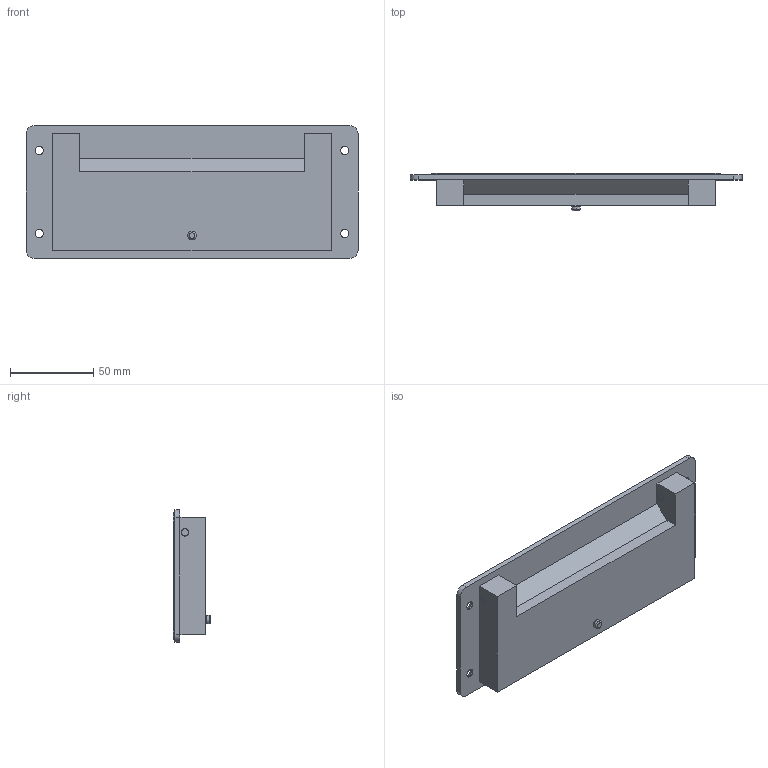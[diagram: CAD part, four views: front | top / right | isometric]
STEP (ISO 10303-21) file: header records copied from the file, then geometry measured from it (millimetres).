
FILE_DESCRIPTION (( 'STEP AP203' ), '1' );
FILE_NAME ('XG01-027-5.STEP', '2024-03-12T03:49:56', ( '' ), ( '' ), 'SwSTEP 2.0', 'SolidWorks 2020', '' );
FILE_SCHEMA (( 'CONFIG_CONTROL_DESIGN' ));
Length unit declared in the file: millimetre
Products named in the file (5): 饜璃1; 饜璃2; XG01-027-5; -5; 饜璃
Assembly tree (5 placements, depth 2):
  XG01-027-5
    -5
    饜璃
    饜璃1
    饜璃2  x2
Bounding box: 200 x 22.5 x 80 mm (x, y, z)
Volume: 106283.3 mm3; surface area: 61620.2 mm2
Topology: 5 solids, 5 shells, 143 faces, 345 edges, 214 vertices
Faces by surface type: cylinder 66, plane 53, torus 12, cone 8, sphere 4
Entity records: 4684 total; most frequent: DIRECTION 773, CARTESIAN_POINT 728, ORIENTED_EDGE 670, EDGE_CURVE 335, AXIS2_PLACEMENT_3D 295, VERTEX_POINT 210, LINE 183, VECTOR 183
